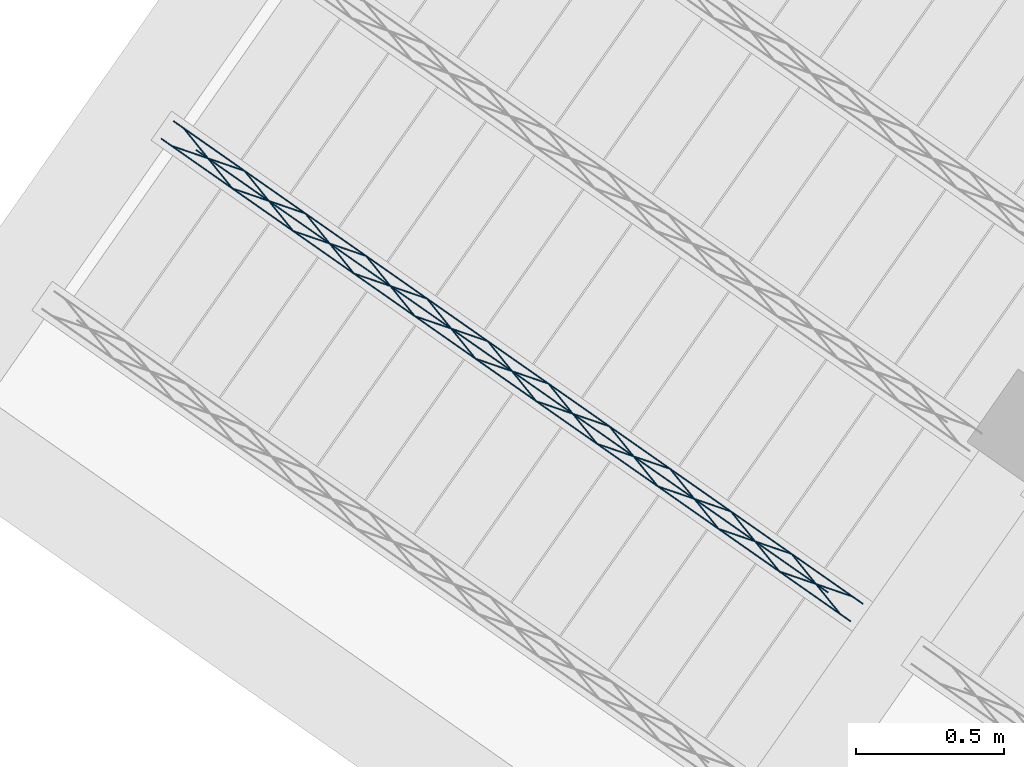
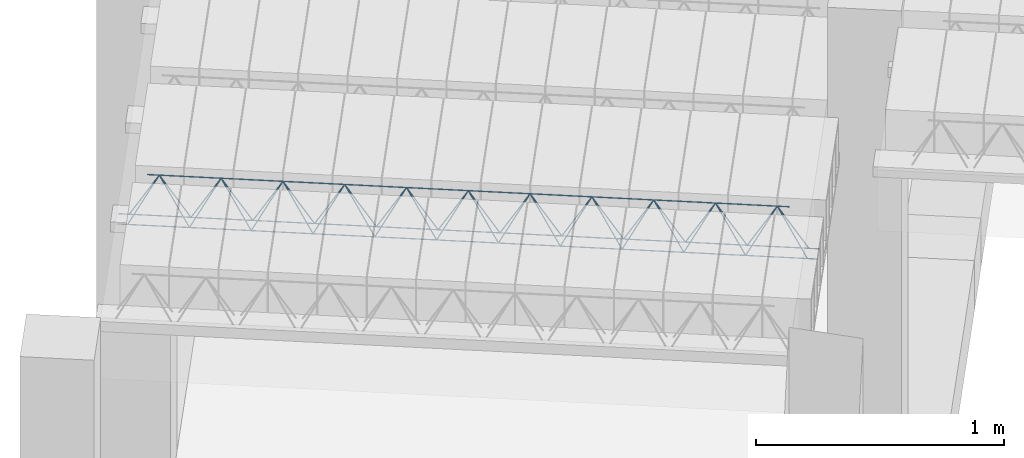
# One storey, part 10 of 80: 1 member.
"""IFC2X3 building model written with IfcOpenShell, lengths in metres."""

from ifc_helpers import new_model, entity, si_unit, converted_unit, derived_unit, direction, frame, origin, origin_2d_with_axis, place, context, subcontext, project, spatial, circle, extrude, type_object, element, save


model = new_model("IFC2X3")

# Units and contexts
model_context = context("Model", 3, precision=1e-05, world=origin(), true_north=direction((6.123031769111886e-17, 1.0)))
body_context = subcontext(model_context, "Body", "Model", "MODEL_VIEW")
ifc_project = project(units=[si_unit("LENGTHUNIT", "METRE"), si_unit("AREAUNIT", "SQUARE_METRE"), si_unit("VOLUMEUNIT", "CUBIC_METRE"), converted_unit("PLANEANGLEUNIT", "DEGREE", entity("IfcPlaneAngleMeasure", 0.017453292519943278), si_unit("PLANEANGLEUNIT", "RADIAN"), dimensions=[0, 0, 0, 0, 0, 0, 0]), si_unit("MASSUNIT", "GRAM", prefix="KILO"), derived_unit("MASSDENSITYUNIT", [(si_unit("MASSUNIT", "GRAM", prefix="KILO"), 1), (si_unit("LENGTHUNIT", "METRE"), -3)]), derived_unit("IONCONCENTRATIONUNIT", [(si_unit("MASSUNIT", "GRAM", prefix="KILO"), 1), (si_unit("LENGTHUNIT", "METRE"), -3)]), derived_unit("MOMENTOFINERTIAUNIT", [(si_unit("LENGTHUNIT", "METRE"), 4)]), si_unit("TIMEUNIT", "SECOND"), si_unit("FREQUENCYUNIT", "HERTZ"), si_unit("THERMODYNAMICTEMPERATUREUNIT", "DEGREE_CELSIUS"), derived_unit("THERMALTRANSMITTANCEUNIT", [(si_unit("MASSUNIT", "GRAM", prefix="KILO"), 1), (si_unit("THERMODYNAMICTEMPERATUREUNIT", "KELVIN"), -1), (si_unit("TIMEUNIT", "SECOND"), -3)]), derived_unit("THERMALCONDUCTANCEUNIT", [(si_unit("MASSUNIT", "GRAM", prefix="KILO"), 1), (si_unit("THERMODYNAMICTEMPERATUREUNIT", "KELVIN"), -1), (si_unit("TIMEUNIT", "SECOND"), -3), (si_unit("LENGTHUNIT", "METRE"), 1)]), derived_unit("VOLUMETRICFLOWRATEUNIT", [(si_unit("LENGTHUNIT", "METRE", prefix="DECI"), 3), (si_unit("TIMEUNIT", "SECOND"), -1)]), derived_unit("MASSFLOWRATEUNIT", [(si_unit("MASSUNIT", "GRAM", prefix="KILO"), 1), (si_unit("TIMEUNIT", "SECOND"), -1)]), derived_unit("ROTATIONALFREQUENCYUNIT", [(si_unit("TIMEUNIT", "SECOND"), -1)]), si_unit("ELECTRICCURRENTUNIT", "AMPERE"), si_unit("ELECTRICVOLTAGEUNIT", "VOLT"), si_unit("POWERUNIT", "WATT"), si_unit("FORCEUNIT", "NEWTON", prefix="KILO"), si_unit("ILLUMINANCEUNIT", "LUX"), si_unit("LUMINOUSFLUXUNIT", "LUMEN"), si_unit("LUMINOUSINTENSITYUNIT", "CANDELA"), si_unit("ENERGYUNIT", "JOULE"), derived_unit("USERDEFINED", [(si_unit("MASSUNIT", "GRAM", prefix="KILO"), -1), (si_unit("LENGTHUNIT", "METRE"), -2), (si_unit("TIMEUNIT", "SECOND"), 3), (si_unit("LUMINOUSFLUXUNIT", "LUMEN"), 1)]), derived_unit("USERDEFINED", [(si_unit("MASSUNIT", "GRAM", prefix="KILO"), 1), (si_unit("TIMEUNIT", "SECOND"), -3), (si_unit("LENGTHUNIT", "METRE"), 3), (si_unit("ELECTRICCURRENTUNIT", "AMPERE"), -2)]), derived_unit("SOUNDPOWERUNIT", [(si_unit("MASSUNIT", "GRAM", prefix="KILO"), 1), (si_unit("TIMEUNIT", "SECOND"), -3), (si_unit("LENGTHUNIT", "METRE"), 2)]), derived_unit("SOUNDPRESSUREUNIT", [(si_unit("MASSUNIT", "GRAM", prefix="KILO"), 1), (si_unit("LENGTHUNIT", "METRE"), -1), (si_unit("TIMEUNIT", "SECOND"), -2)]), derived_unit("LINEARVELOCITYUNIT", [(si_unit("LENGTHUNIT", "METRE"), 1), (si_unit("TIMEUNIT", "SECOND"), -1)]), si_unit("PRESSUREUNIT", "PASCAL"), derived_unit("USERDEFINED", [(si_unit("MASSUNIT", "GRAM", prefix="KILO"), 1), (si_unit("LENGTHUNIT", "METRE"), -2), (si_unit("TIMEUNIT", "SECOND"), -2)]), derived_unit("LINEARFORCEUNIT", [(si_unit("MASSUNIT", "GRAM", prefix="KILO"), 1), (si_unit("TIMEUNIT", "SECOND"), -2)]), derived_unit("PLANARFORCEUNIT", [(si_unit("MASSUNIT", "GRAM", prefix="KILO"), 1), (si_unit("LENGTHUNIT", "METRE"), -1), (si_unit("TIMEUNIT", "SECOND"), -2)]), derived_unit("SPECIFICHEATCAPACITYUNIT", [(si_unit("THERMODYNAMICTEMPERATUREUNIT", "KELVIN"), -1), (si_unit("LENGTHUNIT", "METRE"), 2), (si_unit("TIMEUNIT", "SECOND"), -2)]), derived_unit("HEATFLUXDENSITYUNIT", [(si_unit("MASSUNIT", "GRAM", prefix="KILO"), 1), (si_unit("TIMEUNIT", "SECOND"), -3)]), derived_unit("HEATINGVALUEUNIT", [(si_unit("LENGTHUNIT", "METRE"), 2), (si_unit("TIMEUNIT", "SECOND"), -2)]), derived_unit("VAPORPERMEABILITYUNIT", [(si_unit("LENGTHUNIT", "METRE"), -1), (si_unit("TIMEUNIT", "SECOND"), 1)]), derived_unit("DYNAMICVISCOSITYUNIT", [(si_unit("MASSUNIT", "GRAM", prefix="KILO"), 1), (si_unit("TIMEUNIT", "SECOND"), -1), (si_unit("LENGTHUNIT", "METRE"), -1)]), derived_unit("THERMALEXPANSIONCOEFFICIENTUNIT", [(si_unit("THERMODYNAMICTEMPERATUREUNIT", "KELVIN"), -1)]), derived_unit("MODULUSOFELASTICITYUNIT", [(si_unit("MASSUNIT", "GRAM", prefix="KILO"), 1), (si_unit("LENGTHUNIT", "METRE"), -1), (si_unit("TIMEUNIT", "SECOND"), -2)]), derived_unit("ISOTHERMALMOISTURECAPACITYUNIT", [(si_unit("MASSUNIT", "GRAM", prefix="KILO"), -1), (si_unit("LENGTHUNIT", "METRE"), 3)]), derived_unit("MOISTUREDIFFUSIVITYUNIT", [(si_unit("TIMEUNIT", "SECOND"), -1), (si_unit("LENGTHUNIT", "METRE"), 2)]), derived_unit("MASSPERLENGTHUNIT", [(si_unit("MASSUNIT", "GRAM", prefix="KILO"), 1), (si_unit("LENGTHUNIT", "METRE"), -1)]), derived_unit("THERMALRESISTANCEUNIT", [(si_unit("MASSUNIT", "GRAM", prefix="KILO"), -1), (si_unit("TIMEUNIT", "SECOND"), 3), (si_unit("THERMODYNAMICTEMPERATUREUNIT", "KELVIN"), 1)]), derived_unit("ACCELERATIONUNIT", [(si_unit("LENGTHUNIT", "METRE"), 1), (si_unit("TIMEUNIT", "SECOND"), -2)]), derived_unit("ANGULARVELOCITYUNIT", [(si_unit("TIMEUNIT", "SECOND"), -1), (si_unit("PLANEANGLEUNIT", "RADIAN"), 1)]), derived_unit("LINEARSTIFFNESSUNIT", [(si_unit("MASSUNIT", "GRAM", prefix="KILO"), 1), (si_unit("TIMEUNIT", "SECOND"), -2)]), derived_unit("WARPINGCONSTANTUNIT", [(si_unit("LENGTHUNIT", "METRE"), 6)]), derived_unit("LINEARMOMENTUNIT", [(si_unit("MASSUNIT", "GRAM", prefix="KILO"), 1), (si_unit("LENGTHUNIT", "METRE"), 1), (si_unit("TIMEUNIT", "SECOND"), -2)]), derived_unit("TORQUEUNIT", [(si_unit("MASSUNIT", "GRAM", prefix="KILO"), 1), (si_unit("LENGTHUNIT", "METRE"), 2), (si_unit("TIMEUNIT", "SECOND"), -2)])], contexts=[model_context])

# Site, building, storey
site_placement = place(None, origin())
site = spatial("IfcSite", under=ifc_project, at=site_placement, Name="Default", CompositionType="ELEMENT")
building_placement = place(site_placement, origin())
building = spatial("IfcBuilding", under=site, at=building_placement, CompositionType="ELEMENT")
storey_placement = place(building_placement, frame((0.0, 0.0, 95.94)))
storey = spatial("IfcBuildingStorey", under=building, at=storey_placement, Name="PB", CompositionType="ELEMENT", Elevation=95.94)

# Member
member_type = type_object("IfcMemberType", Name="Celosía (Vigueta 2 - Paño 2)", PredefinedType="NOTDEFINED")
member_placement = place(storey_placement, origin())
element("IfcMember", 1, at=member_placement, inside=storey, type_object=member_type, Name="Celosía (Vigueta 2 - Paño 2)", context=body_context, shape_type="SweptSolid", body=[
    extrude(circle(Radius=0.0025, at=origin_2d_with_axis()), frame((-0.7797196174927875, 3.2491049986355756, 2.8449999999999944), z_axis=(0.8191520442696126, -0.5735764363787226, 0.0), x_axis=(-0.5735764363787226, -0.8191520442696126, 0.0)), (0.0, 0.0, 1.0), 2.836744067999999),
    extrude(circle(Radius=0.0025, at=origin_2d_with_axis()), frame((-0.662106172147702, 3.210699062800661, 3.069999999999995), z_axis=(0.8191520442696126, -0.5735764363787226, 0.0), x_axis=(-0.5735764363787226, -0.8191520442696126, 0.0)), (0.0, 0.0, 1.0), 2.5999999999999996),
    extrude(circle(Radius=0.0025, at=origin_2d_with_axis()), frame((1.5084767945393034, 1.6468926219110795, 2.8449999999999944), z_axis=(-0.3145304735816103, 0.389334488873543, 0.8657304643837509), x_axis=(-0.7778747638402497, -0.6284193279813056, 0.0)), (0.0, 0.0, 1.0), 0.2598961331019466),
    extrude(circle(Radius=0.0025, at=origin_2d_with_axis()), frame((1.3036887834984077, 1.7902867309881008, 2.8449999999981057), z_axis=(0.47343050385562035, -0.1624017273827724, 0.8657304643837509), x_axis=(-0.3244721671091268, -0.9458952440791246, 0.0)), (0.0, 0.0, 1.0), 0.25989613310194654),
    extrude(circle(Radius=0.0025, at=origin_2d_with_axis()), frame((1.3036887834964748, 1.7902867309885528, 2.8449999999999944), z_axis=(-0.3145304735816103, 0.389334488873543, 0.8657304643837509), x_axis=(-0.7778747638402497, -0.6284193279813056, 0.0)), (0.0, 0.0, 1.0), 0.2598961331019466),
    extrude(circle(Radius=0.0025, at=origin_2d_with_axis()), frame((1.0989007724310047, 1.9336808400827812, 2.8449999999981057), z_axis=(0.47343050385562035, -0.1624017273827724, 0.8657304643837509), x_axis=(-0.3244721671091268, -0.9458952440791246, 0.0)), (0.0, 0.0, 1.0), 0.25989613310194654),
    extrude(circle(Radius=0.0025, at=origin_2d_with_axis()), frame((1.0989007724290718, 1.9336808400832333, 2.8449999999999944), z_axis=(-0.3145304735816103, 0.389334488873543, 0.8657304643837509), x_axis=(-0.7778747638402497, -0.6284193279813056, 0.0)), (0.0, 0.0, 1.0), 0.2598961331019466),
    extrude(circle(Radius=0.0025, at=origin_2d_with_axis()), frame((0.8941127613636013, 2.077074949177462, 2.8449999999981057), z_axis=(0.47343050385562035, -0.1624017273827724, 0.8657304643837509), x_axis=(-0.3244721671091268, -0.9458952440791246, 0.0)), (0.0, 0.0, 1.0), 0.25989613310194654),
    extrude(circle(Radius=0.0025, at=origin_2d_with_axis()), frame((0.8941127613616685, 2.077074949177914, 2.8449999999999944), z_axis=(-0.3145304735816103, 0.389334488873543, 0.8657304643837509), x_axis=(-0.7778747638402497, -0.6284193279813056, 0.0)), (0.0, 0.0, 1.0), 0.2598961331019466),
    extrude(circle(Radius=0.0025, at=origin_2d_with_axis()), frame((0.6893247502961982, 2.2204690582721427, 2.8449999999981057), z_axis=(0.47343050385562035, -0.1624017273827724, 0.8657304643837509), x_axis=(-0.3244721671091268, -0.9458952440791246, 0.0)), (0.0, 0.0, 1.0), 0.25989613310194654),
    extrude(circle(Radius=0.0025, at=origin_2d_with_axis()), frame((0.6893247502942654, 2.2204690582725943, 2.8449999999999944), z_axis=(-0.3145304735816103, 0.389334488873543, 0.8657304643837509), x_axis=(-0.7778747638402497, -0.6284193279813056, 0.0)), (0.0, 0.0, 1.0), 0.2598961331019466),
    extrude(circle(Radius=0.0025, at=origin_2d_with_axis()), frame((0.4845367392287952, 2.3638631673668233, 2.8449999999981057), z_axis=(0.47343050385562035, -0.1624017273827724, 0.8657304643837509), x_axis=(-0.3244721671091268, -0.9458952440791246, 0.0)), (0.0, 0.0, 1.0), 0.25989613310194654),
    extrude(circle(Radius=0.0025, at=origin_2d_with_axis()), frame((0.4845367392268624, 2.363863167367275, 2.8449999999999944), z_axis=(-0.3145304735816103, 0.389334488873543, 0.8657304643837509), x_axis=(-0.7778747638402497, -0.6284193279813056, 0.0)), (0.0, 0.0, 1.0), 0.2598961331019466),
    extrude(circle(Radius=0.0025, at=origin_2d_with_axis()), frame((0.2797487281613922, 2.5072572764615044, 2.8449999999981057), z_axis=(0.47343050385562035, -0.1624017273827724, 0.8657304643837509), x_axis=(-0.3244721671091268, -0.9458952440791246, 0.0)), (0.0, 0.0, 1.0), 0.25989613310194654),
    extrude(circle(Radius=0.0025, at=origin_2d_with_axis()), frame((0.2797487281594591, 2.507257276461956, 2.8449999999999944), z_axis=(-0.3145304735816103, 0.389334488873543, 0.8657304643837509), x_axis=(-0.7778747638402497, -0.6284193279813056, 0.0)), (0.0, 0.0, 1.0), 0.2598961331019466),
    extrude(circle(Radius=0.0025, at=origin_2d_with_axis()), frame((0.07496071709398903, 2.6506513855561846, 2.8449999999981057), z_axis=(0.47343050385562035, -0.1624017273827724, 0.8657304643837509), x_axis=(-0.3244721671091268, -0.9458952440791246, 0.0)), (0.0, 0.0, 1.0), 0.25989613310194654),
    extrude(circle(Radius=0.0025, at=origin_2d_with_axis()), frame((0.07496071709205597, 2.6506513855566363, 2.8449999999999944), z_axis=(-0.3145304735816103, 0.389334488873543, 0.8657304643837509), x_axis=(-0.7778747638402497, -0.6284193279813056, 0.0)), (0.0, 0.0, 1.0), 0.2598961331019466),
    extrude(circle(Radius=0.0025, at=origin_2d_with_axis()), frame((-0.1298272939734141, 2.7940454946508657, 2.8449999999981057), z_axis=(0.47343050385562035, -0.1624017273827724, 0.8657304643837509), x_axis=(-0.3244721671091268, -0.9458952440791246, 0.0)), (0.0, 0.0, 1.0), 0.25989613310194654),
    extrude(circle(Radius=0.0025, at=origin_2d_with_axis()), frame((-0.12982729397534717, 2.794045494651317, 2.8449999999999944), z_axis=(-0.3145304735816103, 0.389334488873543, 0.8657304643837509), x_axis=(-0.7778747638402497, -0.6284193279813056, 0.0)), (0.0, 0.0, 1.0), 0.2598961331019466),
    extrude(circle(Radius=0.0025, at=origin_2d_with_axis()), frame((-0.33461530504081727, 2.9374396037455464, 2.8449999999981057), z_axis=(0.47343050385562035, -0.1624017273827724, 0.8657304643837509), x_axis=(-0.3244721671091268, -0.9458952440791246, 0.0)), (0.0, 0.0, 1.0), 0.25989613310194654),
    extrude(circle(Radius=0.0025, at=origin_2d_with_axis()), frame((-0.33461530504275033, 2.937439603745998, 2.8449999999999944), z_axis=(-0.3145304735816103, 0.389334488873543, 0.8657304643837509), x_axis=(-0.7778747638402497, -0.6284193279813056, 0.0)), (0.0, 0.0, 1.0), 0.2598961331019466),
    extrude(circle(Radius=0.0025, at=origin_2d_with_axis()), frame((-0.5394033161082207, 3.0808337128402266, 2.8449999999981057), z_axis=(0.47343050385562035, -0.1624017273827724, 0.8657304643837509), x_axis=(-0.3244721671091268, -0.9458952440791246, 0.0)), (0.0, 0.0, 1.0), 0.25989613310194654),
    extrude(circle(Radius=0.0025, at=origin_2d_with_axis()), frame((-0.5394033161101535, 3.080833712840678, 2.8449999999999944), z_axis=(-0.3145304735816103, 0.389334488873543, 0.8657304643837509), x_axis=(-0.7778747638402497, -0.6284193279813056, 0.0)), (0.0, 0.0, 1.0), 0.2598961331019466),
    extrude(circle(Radius=0.0025, at=origin_2d_with_axis()), frame((-0.7441913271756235, 3.224227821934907, 2.8449999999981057), z_axis=(0.47343050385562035, -0.1624017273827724, 0.8657304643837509), x_axis=(-0.3244721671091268, -0.9458952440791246, 0.0)), (0.0, 0.0, 1.0), 0.25989613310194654),
    extrude(circle(Radius=0.0025, at=origin_2d_with_axis()), frame((1.5853025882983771, 1.6809943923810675, 2.8449999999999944), z_axis=(-0.8191520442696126, 0.5735764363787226, 0.0), x_axis=(-0.5735764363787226, -0.8191520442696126, 0.0)), (0.0, 0.0, 1.0), 2.836744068),
    extrude(circle(Radius=0.0025, at=origin_2d_with_axis()), frame((1.5497742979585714, 1.7058715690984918, 2.8449999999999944), z_axis=(-0.47343050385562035, 0.1624017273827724, 0.8657304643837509), x_axis=(-0.3244721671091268, -0.9458952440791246, 0.0)), (0.0, 0.0, 1.0), 0.25989613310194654),
    extrude(circle(Radius=0.0025, at=origin_2d_with_axis()), frame((1.3449862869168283, 1.849265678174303, 2.8449999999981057), z_axis=(0.3145304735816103, -0.389334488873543, 0.8657304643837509), x_axis=(-0.7778747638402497, -0.6284193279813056, 0.0)), (0.0, 0.0, 1.0), 0.2598961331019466),
    extrude(circle(Radius=0.0025, at=origin_2d_with_axis()), frame((1.3449862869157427, 1.8492656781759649, 2.8449999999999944), z_axis=(-0.47343050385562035, 0.1624017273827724, 0.8657304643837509), x_axis=(-0.3244721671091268, -0.9458952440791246, 0.0)), (0.0, 0.0, 1.0), 0.25989613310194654),
    extrude(circle(Radius=0.0025, at=origin_2d_with_axis()), frame((1.1401982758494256, 1.9926597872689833, 2.8449999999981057), z_axis=(0.3145304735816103, -0.389334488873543, 0.8657304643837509), x_axis=(-0.7778747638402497, -0.6284193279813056, 0.0)), (0.0, 0.0, 1.0), 0.2598961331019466),
    extrude(circle(Radius=0.0025, at=origin_2d_with_axis()), frame((1.1401982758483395, 1.9926597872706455, 2.8449999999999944), z_axis=(-0.47343050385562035, 0.1624017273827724, 0.8657304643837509), x_axis=(-0.3244721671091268, -0.9458952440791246, 0.0)), (0.0, 0.0, 1.0), 0.25989613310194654),
    extrude(circle(Radius=0.0025, at=origin_2d_with_axis()), frame((0.9354102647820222, 2.136053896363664, 2.8449999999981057), z_axis=(0.3145304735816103, -0.389334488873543, 0.8657304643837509), x_axis=(-0.7778747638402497, -0.6284193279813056, 0.0)), (0.0, 0.0, 1.0), 0.2598961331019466),
    extrude(circle(Radius=0.0025, at=origin_2d_with_axis()), frame((0.9354102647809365, 2.136053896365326, 2.8449999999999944), z_axis=(-0.47343050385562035, 0.1624017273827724, 0.8657304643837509), x_axis=(-0.3244721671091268, -0.9458952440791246, 0.0)), (0.0, 0.0, 1.0), 0.25989613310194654),
    extrude(circle(Radius=0.0025, at=origin_2d_with_axis()), frame((0.7306222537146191, 2.2794480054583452, 2.8449999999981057), z_axis=(0.3145304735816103, -0.389334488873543, 0.8657304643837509), x_axis=(-0.7778747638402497, -0.6284193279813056, 0.0)), (0.0, 0.0, 1.0), 0.2598961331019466),
    extrude(circle(Radius=0.0025, at=origin_2d_with_axis()), frame((0.7306222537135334, 2.2794480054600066, 2.8449999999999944), z_axis=(-0.47343050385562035, 0.1624017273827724, 0.8657304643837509), x_axis=(-0.3244721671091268, -0.9458952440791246, 0.0)), (0.0, 0.0, 1.0), 0.25989613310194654),
    extrude(circle(Radius=0.0025, at=origin_2d_with_axis()), frame((0.525834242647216, 2.4228421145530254, 2.8449999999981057), z_axis=(0.3145304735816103, -0.389334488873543, 0.8657304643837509), x_axis=(-0.7778747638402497, -0.6284193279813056, 0.0)), (0.0, 0.0, 1.0), 0.2598961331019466),
    extrude(circle(Radius=0.0025, at=origin_2d_with_axis()), frame((0.5258342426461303, 2.4228421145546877, 2.8449999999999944), z_axis=(-0.47343050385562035, 0.1624017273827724, 0.8657304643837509), x_axis=(-0.3244721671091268, -0.9458952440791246, 0.0)), (0.0, 0.0, 1.0), 0.25989613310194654),
    extrude(circle(Radius=0.0025, at=origin_2d_with_axis()), frame((0.32104623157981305, 2.566236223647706, 2.8449999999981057), z_axis=(0.3145304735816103, -0.389334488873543, 0.8657304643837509), x_axis=(-0.7778747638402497, -0.6284193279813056, 0.0)), (0.0, 0.0, 1.0), 0.2598961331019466),
    extrude(circle(Radius=0.0025, at=origin_2d_with_axis()), frame((0.3210462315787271, 2.566236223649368, 2.8449999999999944), z_axis=(-0.47343050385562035, 0.1624017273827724, 0.8657304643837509), x_axis=(-0.3244721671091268, -0.9458952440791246, 0.0)), (0.0, 0.0, 1.0), 0.25989613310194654),
    extrude(circle(Radius=0.0025, at=origin_2d_with_axis()), frame((0.11625822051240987, 2.7096303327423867, 2.8449999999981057), z_axis=(0.3145304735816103, -0.389334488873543, 0.8657304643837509), x_axis=(-0.7778747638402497, -0.6284193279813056, 0.0)), (0.0, 0.0, 1.0), 0.2598961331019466),
    extrude(circle(Radius=0.0025, at=origin_2d_with_axis()), frame((0.11625822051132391, 2.7096303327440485, 2.8449999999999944), z_axis=(-0.47343050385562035, 0.1624017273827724, 0.8657304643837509), x_axis=(-0.3244721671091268, -0.9458952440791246, 0.0)), (0.0, 0.0, 1.0), 0.25989613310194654),
    extrude(circle(Radius=0.0025, at=origin_2d_with_axis()), frame((-0.08852979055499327, 2.8530244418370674, 2.8449999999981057), z_axis=(0.3145304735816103, -0.389334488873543, 0.8657304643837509), x_axis=(-0.7778747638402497, -0.6284193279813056, 0.0)), (0.0, 0.0, 1.0), 0.2598961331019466),
    extrude(circle(Radius=0.0025, at=origin_2d_with_axis()), frame((-0.08852979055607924, 2.8530244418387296, 2.8449999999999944), z_axis=(-0.47343050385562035, 0.1624017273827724, 0.8657304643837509), x_axis=(-0.3244721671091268, -0.9458952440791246, 0.0)), (0.0, 0.0, 1.0), 0.25989613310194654),
    extrude(circle(Radius=0.0025, at=origin_2d_with_axis()), frame((-0.2933178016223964, 2.996418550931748, 2.8449999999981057), z_axis=(0.3145304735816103, -0.389334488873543, 0.8657304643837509), x_axis=(-0.7778747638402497, -0.6284193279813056, 0.0)), (0.0, 0.0, 1.0), 0.2598961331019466),
    extrude(circle(Radius=0.0025, at=origin_2d_with_axis()), frame((-0.29331780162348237, 2.99641855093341, 2.8449999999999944), z_axis=(-0.47343050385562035, 0.1624017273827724, 0.8657304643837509), x_axis=(-0.3244721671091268, -0.9458952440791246, 0.0)), (0.0, 0.0, 1.0), 0.25989613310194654),
    extrude(circle(Radius=0.0025, at=origin_2d_with_axis()), frame((-0.4981058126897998, 3.1398126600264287, 2.8449999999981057), z_axis=(0.3145304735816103, -0.389334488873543, 0.8657304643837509), x_axis=(-0.7778747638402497, -0.6284193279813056, 0.0)), (0.0, 0.0, 1.0), 0.2598961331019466),
    extrude(circle(Radius=0.0025, at=origin_2d_with_axis()), frame((-0.49810581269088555, 3.139812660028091, 2.8449999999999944), z_axis=(-0.47343050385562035, 0.1624017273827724, 0.8657304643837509), x_axis=(-0.3244721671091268, -0.9458952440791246, 0.0)), (0.0, 0.0, 1.0), 0.25989613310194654),
    extrude(circle(Radius=0.0025, at=origin_2d_with_axis()), frame((-0.7028938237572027, 3.283206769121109, 2.8449999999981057), z_axis=(0.3145304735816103, -0.389334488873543, 0.8657304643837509), x_axis=(-0.7778747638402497, -0.6284193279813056, 0.0)), (0.0, 0.0, 1.0), 0.2598961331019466),
])

save(model, "model.ifc")
